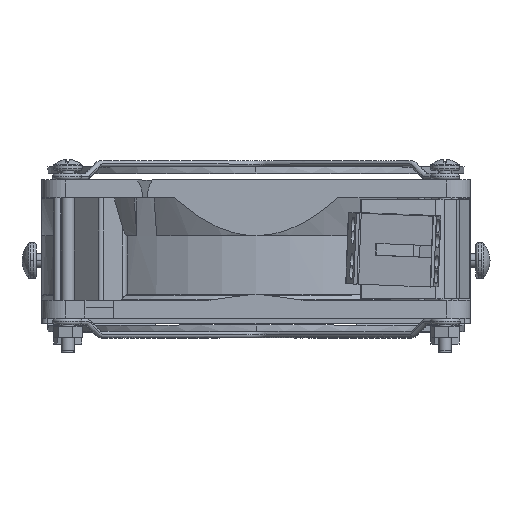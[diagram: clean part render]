
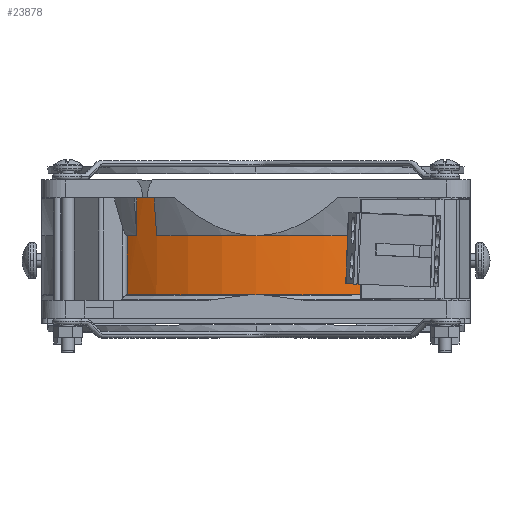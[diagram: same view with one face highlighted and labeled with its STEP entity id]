
A CAD part, top view. The second image highlights one B-rep face of the part: STEP entity #23878.
In plain terms, the highlighted cylindrical face has radius 59.5 mm (diameter 119 mm), a partial arc.
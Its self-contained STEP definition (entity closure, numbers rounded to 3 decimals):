
#331 = CARTESIAN_POINT ( 'NONE',  ( 0., 6.544, 0. ) ) ;
#444 = CARTESIAN_POINT ( 'NONE',  ( 54.083, 6.454, -25.014 ) ) ;
#862 = EDGE_CURVE ( 'NONE', #26400, #27719, #27583, .T. ) ;
#1133 = CARTESIAN_POINT ( 'NONE',  ( 47.567, 19.972, 35.744 ) ) ;
#1173 = ORIENTED_EDGE ( 'NONE', *, *, #26304, .T. ) ;
#1183 = CARTESIAN_POINT ( 'NONE',  ( 47.492, 6.477, -35.886 ) ) ;
#1257 = DIRECTION ( 'NONE',  ( 0., 1., 0. ) ) ;
#1418 = VERTEX_POINT ( 'NONE', #27692 ) ;
#1592 = DIRECTION ( 'NONE',  ( 0., -1., 0. ) ) ;
#1608 = CIRCLE ( 'NONE', #18256, 59.5 ) ;
#1620 = CARTESIAN_POINT ( 'NONE',  ( 59.5, 6.544, 0. ) ) ;
#2028 = CARTESIAN_POINT ( 'NONE',  ( 47.567, 6.544, 35.744 ) ) ;
#2549 = VERTEX_POINT ( 'NONE', #1183 ) ;
#3523 = DIRECTION ( 'NONE',  ( 0., 0., -1. ) ) ;
#3721 = CARTESIAN_POINT ( 'NONE',  ( 0., 22.919, 0. ) ) ;
#3913 = CARTESIAN_POINT ( 'NONE',  ( 52.725, 22.919, 27.574 ) ) ;
#4383 = DIRECTION ( 'NONE',  ( 0., 1., 0. ) ) ;
#4935 = CARTESIAN_POINT ( 'NONE',  ( 51.066, 6.432, -30.707 ) ) ;
#5082 = CARTESIAN_POINT ( 'NONE',  ( 59.238, 6.521, -6.443 ) ) ;
#5672 = CARTESIAN_POINT ( 'NONE',  ( 52.725, 22.919, 27.574 ) ) ;
#5897 = CARTESIAN_POINT ( 'NONE',  ( 0., 22.919, 0. ) ) ;
#6284 = AXIS2_PLACEMENT_3D ( 'NONE', #3721, #7905, #7767 ) ;
#6684 = EDGE_CURVE ( 'NONE', #2549, #21397, #7701, .T. ) ;
#7016 = CARTESIAN_POINT ( 'NONE',  ( 47.492, 6.477, -35.886 ) ) ;
#7168 = CARTESIAN_POINT ( 'NONE',  ( 59.5, 6.533, -3.222 ) ) ;
#7205 = VERTEX_POINT ( 'NONE', #3913 ) ;
#7260 = CARTESIAN_POINT ( 'NONE',  ( 47.567, 22.919, -35.744 ) ) ;
#7557 = CARTESIAN_POINT ( 'NONE',  ( 47.567, 19.972, -35.744 ) ) ;
#7701 = LINE ( 'NONE', #7557, #19235 ) ;
#7767 = DIRECTION ( 'NONE',  ( 0., 0., 1. ) ) ;
#7809 = ORIENTED_EDGE ( 'NONE', *, *, #10890, .T. ) ;
#7905 = DIRECTION ( 'NONE',  ( 0., 1., 0. ) ) ;
#8117 = VERTEX_POINT ( 'NONE', #9923 ) ;
#8178 = ORIENTED_EDGE ( 'NONE', *, *, #862, .T. ) ;
#8312 = CYLINDRICAL_SURFACE ( 'NONE', #8315, 59.5 ) ;
#8315 = AXIS2_PLACEMENT_3D ( 'NONE', #24508, #28983, #26743 ) ;
#9429 = DIRECTION ( 'NONE',  ( -1., 0., 0. ) ) ;
#9762 = VERTEX_POINT ( 'NONE', #25129 ) ;
#9923 = CARTESIAN_POINT ( 'NONE',  ( 49.45, 22.919, 33.09 ) ) ;
#10754 = VECTOR ( 'NONE', #13040, 1000. ) ;
#10890 = EDGE_CURVE ( 'NONE', #8117, #1418, #14969, .T. ) ;
#11419 = B_SPLINE_CURVE_WITH_KNOTS ( 'NONE', 3,
 ( #1620, #7168, #5082, #27241, #22796, #20672, #444, #4935, #11499, #7016 ),
 .UNSPECIFIED., .F., .F.,
 ( 4, 2, 2, 2, 4 ),
 ( 0., 0.25, 0.5, 0.75, 1. ),
 .UNSPECIFIED. ) ;
#11499 = CARTESIAN_POINT ( 'NONE',  ( 49.325, 6.421, -33.431 ) ) ;
#11937 = AXIS2_PLACEMENT_3D ( 'NONE', #331, #16134, #9429 ) ;
#12155 = EDGE_CURVE ( 'NONE', #8117, #9762, #28821, .T. ) ;
#12188 = ORIENTED_EDGE ( 'NONE', *, *, #16681, .F. ) ;
#12329 = VERTEX_POINT ( 'NONE', #22868 ) ;
#13030 = DIRECTION ( 'NONE',  ( 0., 0., 1. ) ) ;
#13040 = DIRECTION ( 'NONE',  ( 0., -1., 0. ) ) ;
#13048 = CARTESIAN_POINT ( 'NONE',  ( 49.45, 22.919, 33.09 ) ) ;
#13070 = AXIS2_PLACEMENT_3D ( 'NONE', #5897, #27921, #3523 ) ;
#14505 = DIRECTION ( 'NONE',  ( 0., -1., 0. ) ) ;
#14605 = CARTESIAN_POINT ( 'NONE',  ( 59.5, 22.919, 0. ) ) ;
#14845 = LINE ( 'NONE', #1133, #10754 ) ;
#14969 = CIRCLE ( 'NONE', #13070, 59.5 ) ;
#15843 = VERTEX_POINT ( 'NONE', #14605 ) ;
#16132 = ORIENTED_EDGE ( 'NONE', *, *, #6684, .T. ) ;
#16134 = DIRECTION ( 'NONE',  ( 0., 1., 0. ) ) ;
#16306 = DIRECTION ( 'NONE',  ( -1., 0., 0. ) ) ;
#16681 = EDGE_CURVE ( 'NONE', #15843, #21397, #16717, .T. ) ;
#16717 = CIRCLE ( 'NONE', #6284, 59.5 ) ;
#17230 = FACE_OUTER_BOUND ( 'NONE', #26679, .T. ) ;
#17251 = CARTESIAN_POINT ( 'NONE',  ( 59.5, 6.544, 0. ) ) ;
#18256 = AXIS2_PLACEMENT_3D ( 'NONE', #21346, #14505, #16306 ) ;
#19112 = ORIENTED_EDGE ( 'NONE', *, *, #25413, .T. ) ;
#19235 = VECTOR ( 'NONE', #1257, 1000. ) ;
#19801 = ORIENTED_EDGE ( 'NONE', *, *, #28957, .T. ) ;
#19828 = EDGE_CURVE ( 'NONE', #12329, #7205, #22010, .T. ) ;
#19968 = CARTESIAN_POINT ( 'NONE',  ( 0., 22.919, 0. ) ) ;
#20672 = CARTESIAN_POINT ( 'NONE',  ( 55.359, 6.465, -22.045 ) ) ;
#21346 = CARTESIAN_POINT ( 'NONE',  ( 0., 33.4, 0. ) ) ;
#21397 = VERTEX_POINT ( 'NONE', #7260 ) ;
#22010 = LINE ( 'NONE', #5672, #28028 ) ;
#22555 = EDGE_CURVE ( 'NONE', #7205, #15843, #24217, .T. ) ;
#22796 = CARTESIAN_POINT ( 'NONE',  ( 57.416, 6.488, -15.938 ) ) ;
#22868 = CARTESIAN_POINT ( 'NONE',  ( 52.725, 33.4, 27.574 ) ) ;
#23307 = ORIENTED_EDGE ( 'NONE', *, *, #19828, .F. ) ;
#23451 = ORIENTED_EDGE ( 'NONE', *, *, #12155, .F. ) ;
#23878 = ADVANCED_FACE ( 'NONE', ( #17230 ), #8312, .T. ) ;
#24217 = CIRCLE ( 'NONE', #25146, 59.5 ) ;
#24508 = CARTESIAN_POINT ( 'NONE',  ( 0., 6.544, 0. ) ) ;
#25129 = CARTESIAN_POINT ( 'NONE',  ( 49.45, 33.4, 33.09 ) ) ;
#25146 = AXIS2_PLACEMENT_3D ( 'NONE', #19968, #4383, #13030 ) ;
#25413 = EDGE_CURVE ( 'NONE', #1418, #26400, #14845, .T. ) ;
#25995 = DIRECTION ( 'NONE',  ( 0., 1., 0. ) ) ;
#26021 = VECTOR ( 'NONE', #25995, 1000. ) ;
#26304 = EDGE_CURVE ( 'NONE', #27719, #2549, #11419, .T. ) ;
#26400 = VERTEX_POINT ( 'NONE', #2028 ) ;
#26679 = EDGE_LOOP ( 'NONE', ( #28995, #23307, #19801, #23451, #7809, #19112, #8178, #1173, #16132, #12188 ) ) ;
#26743 = DIRECTION ( 'NONE',  ( -1., 0., 0. ) ) ;
#27241 = CARTESIAN_POINT ( 'NONE',  ( 58.196, 6.499, -12.802 ) ) ;
#27583 = CIRCLE ( 'NONE', #11937, 59.5 ) ;
#27692 = CARTESIAN_POINT ( 'NONE',  ( 47.567, 22.919, 35.744 ) ) ;
#27719 = VERTEX_POINT ( 'NONE', #17251 ) ;
#27921 = DIRECTION ( 'NONE',  ( 0., -1., 0. ) ) ;
#28028 = VECTOR ( 'NONE', #1592, 1000. ) ;
#28821 = LINE ( 'NONE', #13048, #26021 ) ;
#28957 = EDGE_CURVE ( 'NONE', #12329, #9762, #1608, .T. ) ;
#28983 = DIRECTION ( 'NONE',  ( 0., 1., 0. ) ) ;
#28995 = ORIENTED_EDGE ( 'NONE', *, *, #22555, .F. ) ;
